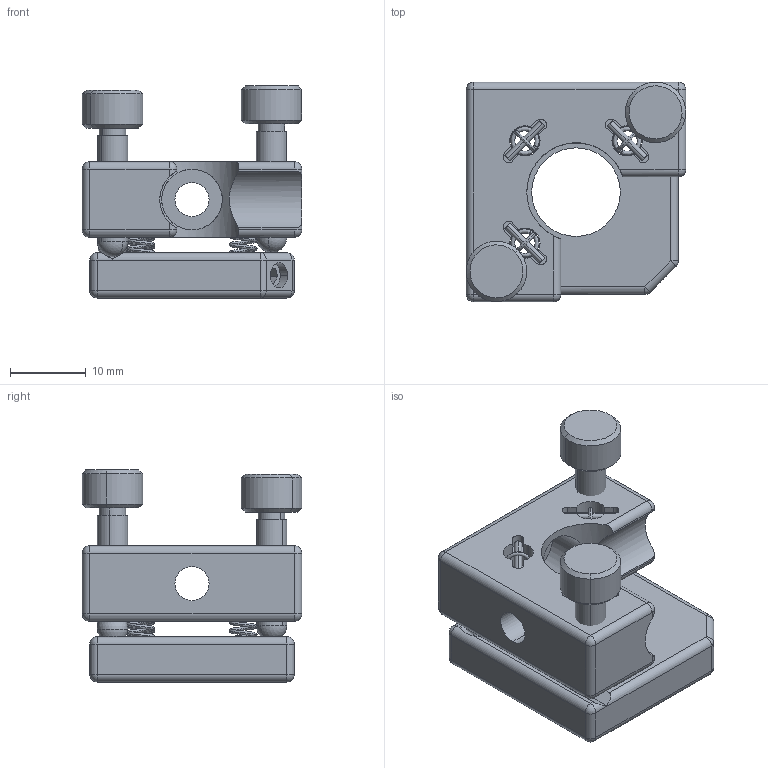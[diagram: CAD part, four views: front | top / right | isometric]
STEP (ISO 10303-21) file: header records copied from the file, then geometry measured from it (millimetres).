
FILE_DESCRIPTION (( 'STEP AP203' ), '1' );
FILE_NAME ('7MM07127謗峎覃淕噩殤.STEP', '2019-10-17T09:06:11', ( '' ), ( '' ), 'SwSTEP 2.0', 'SolidWorks 2014', '' );
FILE_SCHEMA (( 'CONFIG_CONTROL_DESIGN' ));
Length unit declared in the file: millimetre
Products named in the file (1): 7MM07127謗峎覃淕噩殤
Bounding box: 29 x 29 x 28 mm (x, y, z)
Surface area: 6721.2 mm2 (no closed solid volume)
Topology: 0 solids, 26 shells, 258 faces, 695 edges, 421 vertices
Faces by surface type: cylinder 113, plane 77, sphere 26, cone 18, bspline 12, torus 12
Entity records: 15722 total; most frequent: CARTESIAN_POINT 9278, DIRECTION 1447, ORIENTED_EDGE 1219, EDGE_CURVE 660, AXIS2_PLACEMENT_3D 579, VERTEX_POINT 418, CIRCLE 332, VECTOR 289
